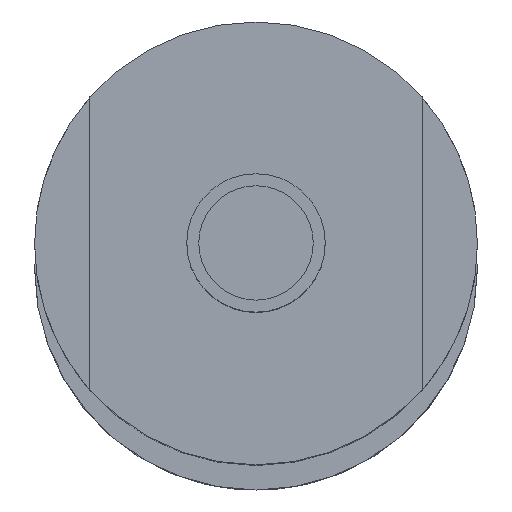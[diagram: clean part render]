
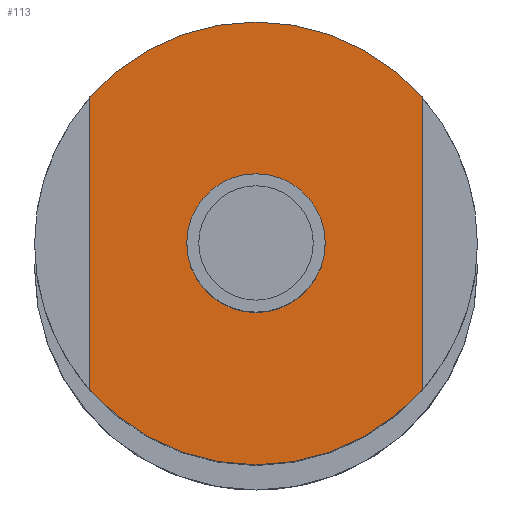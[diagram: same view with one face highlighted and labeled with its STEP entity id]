
A CAD part, top view. The second image highlights one B-rep face of the part: STEP entity #113.
In plain terms, the highlighted planar face has unit normal (0, 0, 1).
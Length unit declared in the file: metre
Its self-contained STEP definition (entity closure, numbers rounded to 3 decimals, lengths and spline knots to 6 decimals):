
#113=ADVANCED_FACE('17:304',(#222,#223),#224,.T.);
#222=FACE_BOUND('',#340,.T.);
#223=FACE_OUTER_BOUND('',#341,.T.);
#224=PLANE('',#342);
#340=EDGE_LOOP('',(#550,#551));
#341=EDGE_LOOP('',(#552,#553,#554,#555,#556,#557));
#342=AXIS2_PLACEMENT_3D('',#558,#559,#560);
#550=ORIENTED_EDGE('',*,*,#643,.T.);
#551=ORIENTED_EDGE('',*,*,#714,.T.);
#552=ORIENTED_EDGE('',*,*,#716,.F.);
#553=ORIENTED_EDGE('',*,*,#653,.F.);
#554=ORIENTED_EDGE('',*,*,#652,.F.);
#555=ORIENTED_EDGE('',*,*,#701,.T.);
#556=ORIENTED_EDGE('',*,*,#708,.F.);
#557=ORIENTED_EDGE('',*,*,#707,.F.);
#558=CARTESIAN_POINT('',(0.,0.,0.449));
#559=DIRECTION('',(0.0,0.0,1.0));
#560=DIRECTION('',(1.0,0.0,0.0));
#643=EDGE_CURVE('19:2123',#759,#756,#760,.F.);
#652=EDGE_CURVE('17:354',#774,#776,#777,.F.);
#653=EDGE_CURVE('17:345',#776,#778,#779,.F.);
#701=EDGE_CURVE('17:844',#774,#849,#850,.T.);
#707=EDGE_CURVE('17:351',#857,#859,#860,.F.);
#708=EDGE_CURVE('17:342',#859,#849,#861,.F.);
#714=EDGE_CURVE('',#756,#759,#867,.F.);
#716=EDGE_CURVE('17:790',#778,#857,#869,.F.);
#756=VERTEX_POINT('',#933);
#759=VERTEX_POINT('',#937);
#760=CIRCLE('',#938,0.0025);
#774=VERTEX_POINT('',#955);
#776=VERTEX_POINT('',#958);
#777=CIRCLE('',#959,0.008);
#778=VERTEX_POINT('',#960);
#779=CIRCLE('',#961,0.008);
#849=VERTEX_POINT('',#1046);
#850=LINE('',#1047,#1048);
#857=VERTEX_POINT('',#1057);
#859=VERTEX_POINT('',#1060);
#860=CIRCLE('',#1061,0.008);
#861=CIRCLE('',#1062,0.008);
#867=CIRCLE('',#1068,0.0025);
#869=LINE('',#1070,#1071);
#933=CARTESIAN_POINT('',(0.00239,0.000133,0.449));
#937=CARTESIAN_POINT('',(-0.00261,0.000133,0.449));
#938=AXIS2_PLACEMENT_3D('',#1144,#1145,#1146);
#955=CARTESIAN_POINT('',(-0.00611,0.005425,0.449));
#958=CARTESIAN_POINT('',(-0.00011,0.008133,0.449));
#959=AXIS2_PLACEMENT_3D('',#1160,#1161,#1162);
#960=CARTESIAN_POINT('',(0.00589,0.005425,0.449));
#961=AXIS2_PLACEMENT_3D('',#1163,#1164,#1165);
#1046=CARTESIAN_POINT('',(-0.00611,-0.005158,0.449));
#1047=CARTESIAN_POINT('',(-0.00611,0.000067,0.449));
#1048=VECTOR('',#1235,1.0);
#1057=CARTESIAN_POINT('',(0.00589,-0.005158,0.449));
#1060=CARTESIAN_POINT('',(-0.00011,-0.007867,0.449));
#1061=AXIS2_PLACEMENT_3D('',#1242,#1243,#1244);
#1062=AXIS2_PLACEMENT_3D('',#1245,#1246,#1247);
#1068=AXIS2_PLACEMENT_3D('',#1257,#1258,#1259);
#1070=CARTESIAN_POINT('',(0.00589,0.000067,0.449));
#1071=VECTOR('',#1260,1.0);
#1144=CARTESIAN_POINT('',(-0.00011,0.000133,0.449));
#1145=DIRECTION('',(0.0,0.0,1.0));
#1146=DIRECTION('',(1.0,0.0,-0.0));
#1160=CARTESIAN_POINT('',(-0.00011,0.000133,0.449));
#1161=DIRECTION('',(0.0,0.0,1.0));
#1162=DIRECTION('',(1.0,0.0,0.0));
#1163=CARTESIAN_POINT('',(-0.00011,0.000133,0.449));
#1164=DIRECTION('',(0.0,0.0,1.0));
#1165=DIRECTION('',(1.0,0.0,0.0));
#1235=DIRECTION('',(0.,-1.0,0.0));
#1242=CARTESIAN_POINT('',(-0.00011,0.000133,0.449));
#1243=DIRECTION('',(0.0,0.0,1.0));
#1244=DIRECTION('',(1.0,0.0,0.0));
#1245=CARTESIAN_POINT('',(-0.00011,0.000133,0.449));
#1246=DIRECTION('',(0.0,0.0,1.0));
#1247=DIRECTION('',(1.0,0.0,0.0));
#1257=CARTESIAN_POINT('',(-0.00011,0.000133,0.449));
#1258=DIRECTION('',(0.0,0.0,1.0));
#1259=DIRECTION('',(1.0,0.0,-0.0));
#1260=DIRECTION('',(0.,1.0,0.0));
